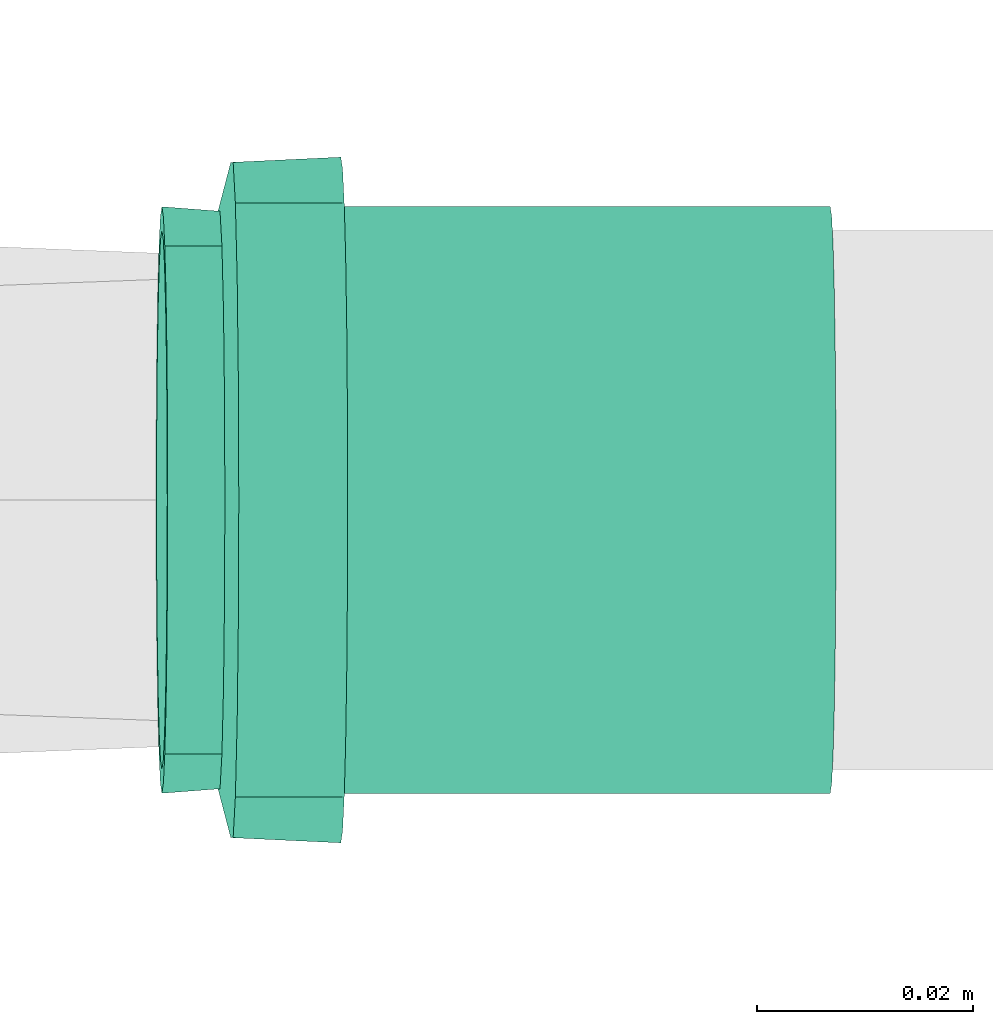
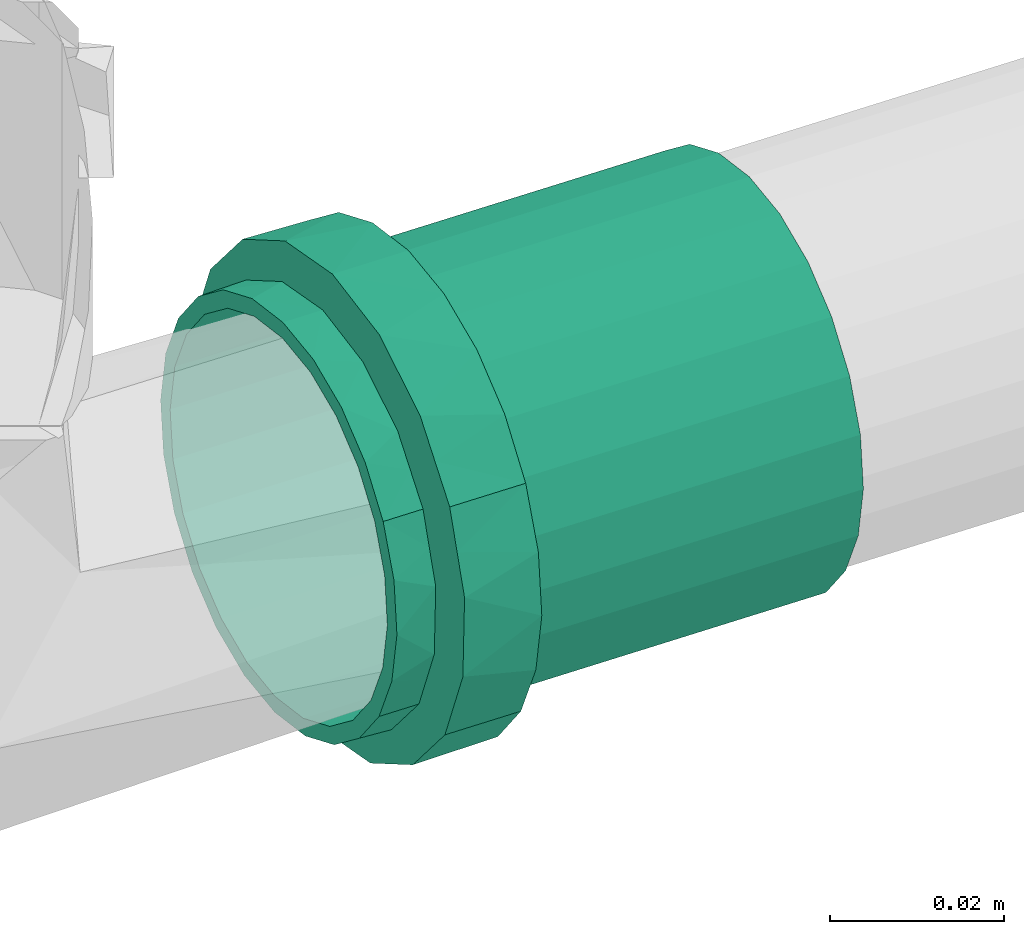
# One storey, part 270 of 589: 1 flow fitting.
"""IFC2X3 building model written with IfcOpenShell, lengths in millimetres."""

from ifc_helpers import new_model, entity, si_unit, converted_unit, derived_unit, direction, frame, origin, place, context, subcontext, project, spatial, faceted_brep, source, transform, mapped, material, type_object, type_shapes, element, save


model = new_model("IFC2X3")

# Units and contexts
model_context = context("Model", 3, precision=0.01, world=origin(), true_north=direction((6.123031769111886e-17, 1.0)))
body_context = subcontext(model_context, "Body", "Model", "MODEL_VIEW")
ifc_project = project(units=[si_unit("LENGTHUNIT", "METRE", prefix="MILLI"), si_unit("AREAUNIT", "SQUARE_METRE"), si_unit("VOLUMEUNIT", "CUBIC_METRE"), converted_unit("PLANEANGLEUNIT", "DEGREE", entity("IfcRatioMeasure", 0.017453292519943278), si_unit("PLANEANGLEUNIT", "RADIAN"), dimensions=[0, 0, 0, 0, 0, 0, 0]), si_unit("MASSUNIT", "GRAM", prefix="KILO"), derived_unit("MASSDENSITYUNIT", [(si_unit("MASSUNIT", "GRAM", prefix="KILO"), 1), (si_unit("LENGTHUNIT", "METRE"), -3)]), derived_unit("IONCONCENTRATIONUNIT", [(si_unit("MASSUNIT", "GRAM", prefix="KILO"), 1), (si_unit("LENGTHUNIT", "METRE"), -3)]), derived_unit("MOMENTOFINERTIAUNIT", [(si_unit("LENGTHUNIT", "METRE"), 4)]), si_unit("TIMEUNIT", "SECOND"), si_unit("FREQUENCYUNIT", "HERTZ"), si_unit("THERMODYNAMICTEMPERATUREUNIT", "DEGREE_CELSIUS"), derived_unit("THERMALTRANSMITTANCEUNIT", [(si_unit("MASSUNIT", "GRAM", prefix="KILO"), 1), (si_unit("THERMODYNAMICTEMPERATUREUNIT", "KELVIN"), -1), (si_unit("TIMEUNIT", "SECOND"), -3)]), derived_unit("THERMALCONDUCTANCEUNIT", [(si_unit("MASSUNIT", "GRAM", prefix="KILO"), 1), (si_unit("THERMODYNAMICTEMPERATUREUNIT", "KELVIN"), -1), (si_unit("TIMEUNIT", "SECOND"), -3), (si_unit("LENGTHUNIT", "METRE"), 1)]), derived_unit("VOLUMETRICFLOWRATEUNIT", [(si_unit("LENGTHUNIT", "METRE"), 3), (si_unit("TIMEUNIT", "SECOND"), -1)]), derived_unit("MASSFLOWRATEUNIT", [(si_unit("MASSUNIT", "GRAM", prefix="KILO"), 1), (si_unit("TIMEUNIT", "SECOND"), -1)]), derived_unit("ROTATIONALFREQUENCYUNIT", [(si_unit("TIMEUNIT", "SECOND"), -1)]), si_unit("ELECTRICCURRENTUNIT", "AMPERE"), si_unit("ELECTRICVOLTAGEUNIT", "VOLT"), si_unit("POWERUNIT", "WATT"), si_unit("FORCEUNIT", "NEWTON", prefix="KILO"), si_unit("ILLUMINANCEUNIT", "LUX"), si_unit("LUMINOUSFLUXUNIT", "LUMEN"), si_unit("LUMINOUSINTENSITYUNIT", "CANDELA"), derived_unit("USERDEFINED", [(si_unit("MASSUNIT", "GRAM", prefix="KILO"), -1), (si_unit("LENGTHUNIT", "METRE"), -2), (si_unit("TIMEUNIT", "SECOND"), 3), (si_unit("LUMINOUSFLUXUNIT", "LUMEN"), 1)]), derived_unit("USERDEFINED", [(si_unit("MASSUNIT", "GRAM", prefix="KILO"), 1), (si_unit("TIMEUNIT", "SECOND"), -3), (si_unit("LENGTHUNIT", "METRE"), 3), (si_unit("ELECTRICCURRENTUNIT", "AMPERE"), -2)]), derived_unit("SOUNDPOWERUNIT", [(si_unit("MASSUNIT", "GRAM", prefix="KILO"), 1), (si_unit("TIMEUNIT", "SECOND"), -3), (si_unit("LENGTHUNIT", "METRE"), 2)]), derived_unit("SOUNDPRESSUREUNIT", [(si_unit("MASSUNIT", "GRAM", prefix="KILO"), 1), (si_unit("LENGTHUNIT", "METRE"), -1), (si_unit("TIMEUNIT", "SECOND"), -2)]), derived_unit("LINEARVELOCITYUNIT", [(si_unit("LENGTHUNIT", "METRE"), 1), (si_unit("TIMEUNIT", "SECOND"), -1)]), si_unit("PRESSUREUNIT", "PASCAL"), derived_unit("USERDEFINED", [(si_unit("MASSUNIT", "GRAM", prefix="KILO"), 1), (si_unit("LENGTHUNIT", "METRE"), -2), (si_unit("TIMEUNIT", "SECOND"), -2)]), derived_unit("LINEARFORCEUNIT", [(si_unit("MASSUNIT", "GRAM", prefix="KILO"), 1), (si_unit("TIMEUNIT", "SECOND"), -2)]), derived_unit("PLANARFORCEUNIT", [(si_unit("MASSUNIT", "GRAM", prefix="KILO"), 1), (si_unit("LENGTHUNIT", "METRE"), -1), (si_unit("TIMEUNIT", "SECOND"), -2)]), derived_unit("SPECIFICHEATCAPACITYUNIT", [(si_unit("THERMODYNAMICTEMPERATUREUNIT", "KELVIN"), -1), (si_unit("LENGTHUNIT", "METRE"), 2), (si_unit("TIMEUNIT", "SECOND"), -2)]), derived_unit("HEATINGVALUEUNIT", [(si_unit("LENGTHUNIT", "METRE"), 2), (si_unit("TIMEUNIT", "SECOND"), -2)]), derived_unit("VAPORPERMEABILITYUNIT", [(si_unit("LENGTHUNIT", "METRE"), -1), (si_unit("TIMEUNIT", "SECOND"), 1)]), derived_unit("DYNAMICVISCOSITYUNIT", [(si_unit("MASSUNIT", "GRAM", prefix="KILO"), 1), (si_unit("TIMEUNIT", "SECOND"), -1), (si_unit("LENGTHUNIT", "METRE"), -1)]), derived_unit("THERMALEXPANSIONCOEFFICIENTUNIT", [(si_unit("THERMODYNAMICTEMPERATUREUNIT", "KELVIN"), -1)]), derived_unit("MODULUSOFELASTICITYUNIT", [(si_unit("MASSUNIT", "GRAM", prefix="KILO"), 1), (si_unit("LENGTHUNIT", "METRE"), -1), (si_unit("TIMEUNIT", "SECOND"), -2)]), derived_unit("ISOTHERMALMOISTURECAPACITYUNIT", [(si_unit("LENGTHUNIT", "METRE"), 3), (si_unit("MASSUNIT", "GRAM", prefix="KILO"), -1)]), derived_unit("MOISTUREDIFFUSIVITYUNIT", [(si_unit("TIMEUNIT", "SECOND"), -1), (si_unit("LENGTHUNIT", "METRE"), 2)])], contexts=[model_context])

# Site, building, storey
site_placement = place(None, origin())
site = spatial("IfcSite", under=ifc_project, at=site_placement, Name="Default", CompositionType="ELEMENT")
building_placement = place(site_placement, origin())
building = spatial("IfcBuilding", under=site, at=building_placement, CompositionType="ELEMENT")
storey_placement = place(building_placement, frame((0.0, 0.0, 100.0)))
storey = spatial("IfcBuildingStorey", under=building, at=storey_placement, Name="TÉRREO", CompositionType="ELEMENT", Elevation=100.0)

# Flow fitting
ifc_material = material(Name="PVC Série Normal")
pipe_fitting_type = type_object("IfcPipeFittingType", Name="PVC Esgoto_Luva Simples para Conexão_Rodrigo MEP:Standard", PredefinedType="NOTDEFINED", material=ifc_material)
shared_shape = source(origin(), body_context, "Body", "Brep", [
    faceted_brep([(16.599999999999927, 15.900000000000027, -27.53960784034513), (16.599999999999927, 22.485995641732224, -22.485995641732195), (16.599999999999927, 13.599999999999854, -23.555890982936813), (16.599999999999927, 7.039878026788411, -26.273182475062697), (16.599999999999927, 8.2304456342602, -30.71644127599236), (16.599999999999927, 19.233304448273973, -19.233304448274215), (16.599999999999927, 27.539607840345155, -15.899999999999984), (16.599999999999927, 23.55589098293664, -13.600000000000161), (16.599999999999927, 26.273182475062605, -7.03987802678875), (16.599999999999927, 30.716441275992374, -8.230445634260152), (16.599999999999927, 27.2, 0.0), (16.599999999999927, 31.8, 0.0), (16.599999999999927, 26.273182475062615, 7.0398780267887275), (16.599999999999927, 30.71644127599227, 8.23044563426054), (16.599999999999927, 23.555890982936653, 13.60000000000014), (16.599999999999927, 27.539607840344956, 15.900000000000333), (16.599999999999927, 19.233304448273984, 19.2333044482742), (16.599999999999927, 22.485995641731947, 22.48599564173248), (16.599999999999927, 13.599999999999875, 23.555890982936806), (16.599999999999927, 15.899999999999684, 27.53960784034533), (16.599999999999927, 7.039878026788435, 26.27318247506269), (16.599999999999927, 8.230445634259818, 30.716441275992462), (16.599999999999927, 0.0, 27.2), (16.599999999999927, 0.0, 31.8), (16.599999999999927, -7.039878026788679, 26.273182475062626), (16.599999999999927, -8.230445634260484, 30.716441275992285), (16.599999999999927, -13.600000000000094, 23.555890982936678), (16.599999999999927, -15.900000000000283, 27.53960784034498), (16.599999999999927, -19.23330444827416, 19.233304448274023), (16.599999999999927, -22.485995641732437, 22.48599564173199), (16.599999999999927, -23.55589098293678, 13.59999999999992), (16.599999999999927, -27.539607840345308, 15.899999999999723), (16.599999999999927, -30.71644127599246, 8.230445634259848), (16.599999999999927, -26.273182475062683, 7.039878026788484), (16.599999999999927, -31.8, 0.0), (16.599999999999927, -27.2, 0.0), (16.599999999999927, -30.71644127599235, -8.23044563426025), (16.599999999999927, -26.273182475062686, -7.03987802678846), (16.599999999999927, -27.53960784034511, -15.90000000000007), (16.599999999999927, -23.55589098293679, -13.599999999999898), (16.599999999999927, -22.485995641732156, -22.485995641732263), (16.599999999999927, -19.233304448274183, -19.233304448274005), (16.599999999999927, -15.899999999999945, -27.53960784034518), (16.599999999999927, -13.600000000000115, -23.555890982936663), (16.599999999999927, -8.230445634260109, -30.716441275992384), (16.599999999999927, -7.039878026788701, -26.273182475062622), (16.599999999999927, 0.0, -31.8), (16.599999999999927, 0.0, -27.2), (6.500000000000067, -10.708108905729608, 29.429219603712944), (6.500000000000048, -24.359073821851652, 20.44200387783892), (6.500000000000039, -27.120498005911, 15.6595386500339), (6.50000000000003, -29.881922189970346, 10.877073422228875), (6.500000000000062, -15.89769721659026, 27.540937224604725), (6.500000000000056, -20.128385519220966, 23.991470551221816), (6.50000000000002, -30.840961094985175, 5.438536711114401), (6.5000000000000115, -31.8, 0.0), (6.50000000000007, -5.518520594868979, 31.317501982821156), (6.500000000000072, 5.526376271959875, 31.316116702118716), (6.50000000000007, 0.00392783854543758, 31.316809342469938), (6.500000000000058, 20.134403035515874, 23.986420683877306), (6.500000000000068, 10.715490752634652, 29.42653259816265), (6.500000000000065, 15.904605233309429, 27.536948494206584), (6.500000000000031, 29.8846497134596, 10.869577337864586), (6.500000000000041, 27.12442527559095, 15.652735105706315), (6.5000000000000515, 24.364200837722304, 20.435892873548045), (6.5000000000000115, 31.8, 0.0), (6.499999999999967, 24.364200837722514, -20.435892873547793), (6.499999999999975, 27.12442527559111, -15.652735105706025), (6.499999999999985, 29.884649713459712, -10.869577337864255), (6.4999999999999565, 15.904605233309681, -27.53694849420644), (6.499999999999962, 20.134403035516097, -23.986420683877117), (6.499999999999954, 10.715490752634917, -29.42653259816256), (6.499999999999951, 5.526376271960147, -31.31611670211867), (6.499999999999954, -5.518520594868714, -31.317501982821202), (6.499999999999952, 0.003927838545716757, -31.316809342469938), (6.499999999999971, -20.128385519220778, -23.99147055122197), (6.499999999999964, -15.897697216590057, -27.54093722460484), (6.499999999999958, -10.70810890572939, -29.42921960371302), (6.499999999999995, -29.881922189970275, -10.877073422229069), (6.499999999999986, -27.12049800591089, -15.659538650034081), (6.499999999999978, -24.359073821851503, -20.442003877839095), (6.500000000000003, -30.840961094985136, -5.438536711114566), (6.499999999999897, -30.696173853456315, -6.259599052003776), (62.0, 13.600000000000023, -23.55589098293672), (62.0, 19.233304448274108, -19.23330444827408), (62.0, 12.499999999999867, -21.650635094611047), (62.0, 6.470476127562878, -24.14814565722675), (62.0, 7.039878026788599, -26.273182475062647), (62.0, 17.677669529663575, -17.677669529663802), (62.0, 23.55589098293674, -13.599999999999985), (62.0, 21.65063509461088, -12.50000000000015), (62.0, 24.148145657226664, -6.470476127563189), (62.0, 26.27318247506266, -7.039878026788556), (62.0, 25.0, 0.0), (62.0, 27.2, 0.0), (62.0, 24.148145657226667, 6.4704761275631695), (62.0, 26.273182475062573, 7.03987802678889), (62.0, 21.650635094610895, 12.500000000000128), (62.0, 23.555890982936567, 13.600000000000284), (62.0, 17.67766952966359, 17.67766952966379), (62.0, 19.233304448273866, 19.233304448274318), (62.0, 12.499999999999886, 21.650635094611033), (62.0, 13.59999999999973, 23.55589098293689), (62.0, 6.4704761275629, 24.14814565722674), (62.0, 7.039878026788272, 26.273182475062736), (62.0, 0.0, 25.0), (62.0, 0.0, 27.2), (62.0, -6.470476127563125, 24.148145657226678), (62.0, -7.039878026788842, 26.273182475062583), (62.0, -12.500000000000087, 21.650635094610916), (62.0, -13.600000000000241, 23.555890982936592), (62.0, -17.677669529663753, 17.677669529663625), (62.0, -19.233304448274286, 19.2333044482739), (62.0, -21.65063509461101, 12.499999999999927), (62.0, -23.555890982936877, 13.599999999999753), (62.0, -26.27318247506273, 7.039878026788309), (62.0, -24.14814565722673, 6.470476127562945), (62.0, -27.2, 0.0), (62.0, -25.0, 0.0), (62.0, -26.27318247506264, -7.0398780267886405), (62.0, -24.148145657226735, -6.470476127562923), (62.0, -23.5558909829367, -13.600000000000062), (62.0, -21.650635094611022, -12.499999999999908), (62.0, -19.233304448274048, -19.233304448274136), (62.0, -17.67766952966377, -17.677669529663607), (62.0, -13.599999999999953, -23.555890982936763), (62.0, -12.500000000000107, -21.650635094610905), (62.0, -7.039878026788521, -26.27318247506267), (62.0, -6.470476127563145, -24.148145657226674), (62.0, 0.0, -27.2), (62.0, 0.0, -25.0), (0.0, 12.499999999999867, -21.650635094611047), (0.0, 19.233304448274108, -19.23330444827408), (0.0, 13.600000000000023, -23.55589098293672), (0.0, 6.470476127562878, -24.14814565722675), (0.0, 17.677669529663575, -17.677669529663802), (0.0, 23.55589098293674, -13.599999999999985), (0.0, 21.65063509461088, -12.50000000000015), (0.0, 24.148145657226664, -6.470476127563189), (0.0, 26.27318247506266, -7.039878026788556), (0.0, 25.0, 0.0), (0.0, 27.2, 0.0), (0.0, 24.148145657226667, 6.4704761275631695), (0.0, 26.273182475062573, 7.03987802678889), (0.0, 21.650635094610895, 12.500000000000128), (0.0, 23.555890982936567, 13.600000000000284), (0.0, 17.67766952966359, 17.67766952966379), (0.0, 19.233304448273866, 19.233304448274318), (0.0, 12.499999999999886, 21.650635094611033), (0.0, 13.59999999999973, 23.55589098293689), (0.0, 6.4704761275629, 24.14814565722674), (0.0, 7.039878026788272, 26.273182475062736), (0.0, 0.0, 25.0), (0.0, 0.0, 27.2), (0.0, -6.470476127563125, 24.148145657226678), (0.0, -7.039878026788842, 26.273182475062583), (0.0, -12.500000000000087, 21.650635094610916), (0.0, -13.600000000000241, 23.555890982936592), (0.0, -17.677669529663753, 17.677669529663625), (0.0, -19.233304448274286, 19.2333044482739), (0.0, -21.65063509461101, 12.499999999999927), (0.0, -23.555890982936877, 13.599999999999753), (0.0, -26.27318247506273, 7.039878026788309), (0.0, -24.14814565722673, 6.470476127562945), (0.0, -27.2, 0.0), (0.0, -25.0, 0.0), (0.0, -26.27318247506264, -7.0398780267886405), (0.0, -24.148145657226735, -6.470476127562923), (0.0, -23.5558909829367, -13.600000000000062), (0.0, -21.650635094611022, -12.499999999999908), (0.0, -19.233304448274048, -19.233304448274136), (0.0, -17.67766952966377, -17.677669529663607), (0.0, -13.599999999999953, -23.555890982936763), (0.0, -12.500000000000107, -21.650635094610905), (0.0, -7.039878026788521, -26.27318247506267), (0.0, -6.470476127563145, -24.148145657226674), (0.0, 0.0, -27.2), (0.0, 0.0, -25.0), (0.0, 7.039878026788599, -26.273182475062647), (5.300000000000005, -26.37968999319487, 4.651830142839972), (5.299999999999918, -26.25584678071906, 5.354122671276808), (5.300000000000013, -25.559379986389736, 9.303660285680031), (5.300000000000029, -20.835434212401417, 17.48498444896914), (5.300000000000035, -17.216732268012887, 20.521006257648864), (5.300000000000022, -23.19740709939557, 13.394322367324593), (5.3000000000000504, -4.720244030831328, 26.787297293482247), (5.300000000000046, -9.15913717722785, 25.172162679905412), (5.299999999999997, -27.2, 0.0), (5.300000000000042, -13.598030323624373, 23.557028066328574), (5.300000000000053, 9.165451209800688, 25.169864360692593), (5.300000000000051, 13.603939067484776, 23.55361632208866), (5.300000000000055, 4.7269633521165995, 26.786112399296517), (5.300000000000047, 17.221879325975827, 20.516686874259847), (5.300000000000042, 20.839819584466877, 17.479757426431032), (5.3000000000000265, 25.56171296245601, 9.297248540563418), (5.299999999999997, 27.2, 0.0), (5.3000000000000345, 23.20076627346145, 13.388502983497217), (5.300000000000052, 0.003359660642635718, 26.786704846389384), (5.299999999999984, 25.56171296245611, -9.29724854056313), (5.299999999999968, 20.839819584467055, -17.47975742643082), (5.2999999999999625, 17.22187932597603, -20.516686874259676), (5.299999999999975, 23.200766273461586, -13.388502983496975), (5.299999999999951, 4.726963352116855, -26.78611239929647), (5.2999999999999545, 9.165451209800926, -25.169864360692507), (5.299999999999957, 13.603939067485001, -23.553616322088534), (5.29999999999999, -26.379689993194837, -4.651830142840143), (5.299999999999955, -9.159137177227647, -25.17216267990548), (5.299999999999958, -13.5980303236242, -23.55702806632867), (5.299999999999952, -4.720244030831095, -26.787297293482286), (5.299999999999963, -17.216732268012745, -20.52100625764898), (5.299999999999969, -20.83543421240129, -17.484984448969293), (5.299999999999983, -25.559379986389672, -9.303660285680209), (5.299999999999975, -23.197407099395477, -13.394322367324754), (5.299999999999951, 0.003359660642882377, -26.78670484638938), (39.0, -25.0, 0.0), (39.0, 25.0, 0.0)], [[[0, 1, 2]], [[0, 2, 3]], [[3, 4, 0]], [[2, 1, 5]], [[6, 5, 1]], [[7, 5, 6]], [[8, 7, 6]], [[8, 6, 9]], [[8, 9, 10]], [[10, 9, 11]], [[12, 10, 11]], [[12, 11, 13]], [[14, 12, 13]], [[14, 13, 15]], [[16, 14, 15]], [[15, 17, 16]], [[17, 18, 16]], [[17, 19, 18]], [[18, 19, 20]], [[21, 20, 19]], [[20, 21, 22]], [[22, 21, 23]], [[22, 23, 24]], [[24, 23, 25]], [[24, 25, 26]], [[27, 26, 25]], [[27, 28, 26]], [[28, 27, 29]], [[30, 28, 29]], [[31, 30, 29]], [[32, 30, 31]], [[33, 30, 32]], [[33, 32, 34]], [[35, 33, 34]], [[36, 35, 34]], [[36, 37, 35]], [[37, 36, 38]], [[39, 37, 38]], [[39, 38, 40]], [[39, 40, 41]], [[40, 42, 41]], [[41, 42, 43]], [[43, 42, 44]], [[44, 45, 43]], [[46, 45, 44]], [[4, 47, 46]], [[46, 47, 45]], [[4, 3, 47]], [[48, 27, 25]], [[31, 29, 49]], [[31, 49, 50, 51]], [[52, 53, 27]], [[32, 51, 54]], [[54, 55, 34]], [[54, 34, 32]], [[25, 56, 48]], [[49, 29, 53]], [[23, 57, 58, 56]], [[59, 19, 17]], [[27, 53, 29]], [[48, 52, 27]], [[31, 51, 32]], [[57, 23, 21]], [[60, 19, 61]], [[15, 62, 63, 64]], [[19, 60, 21]], [[15, 13, 62]], [[17, 64, 59]], [[57, 21, 60]], [[23, 56, 25]], [[15, 64, 17]], [[13, 65, 62]], [[13, 11, 65]], [[59, 61, 19]], [[65, 11, 9]], [[6, 1, 66]], [[6, 66, 67, 68]], [[69, 70, 0]], [[68, 65, 9]], [[71, 69, 0]], [[71, 0, 4]], [[4, 72, 71]], [[66, 1, 70]], [[46, 73, 74, 72]], [[75, 76, 42]], [[0, 70, 1]], [[75, 42, 40]], [[6, 68, 9]], [[73, 46, 44]], [[77, 42, 76]], [[38, 78, 79, 80]], [[42, 77, 44]], [[38, 36, 78]], [[40, 80, 75]], [[73, 44, 77]], [[46, 72, 4]], [[38, 80, 40]], [[36, 81, 82, 78]], [[55, 81, 34]], [[34, 81, 36]], [[83, 84, 85]], [[83, 85, 86]], [[86, 87, 83]], [[85, 84, 88]], [[89, 88, 84]], [[88, 89, 90]], [[90, 89, 91]], [[92, 91, 89]], [[92, 93, 91]], [[93, 92, 94]], [[95, 93, 94]], [[94, 96, 95]], [[95, 96, 97]], [[98, 97, 96]], [[97, 98, 99]], [[99, 98, 100]], [[101, 99, 100]], [[100, 102, 101]], [[101, 102, 103]], [[104, 103, 102]], [[103, 104, 105]], [[105, 104, 106]], [[105, 106, 107]], [[107, 106, 108]], [[107, 108, 109]], [[110, 109, 108]], [[110, 111, 109]], [[111, 110, 112]], [[112, 113, 111]], [[114, 113, 112]], [[113, 114, 115]], [[115, 116, 113]], [[117, 116, 115]], [[117, 118, 116]], [[119, 118, 117]], [[119, 120, 118]], [[120, 119, 121]], [[121, 122, 120]], [[122, 121, 123]], [[122, 123, 124]], [[123, 125, 124]], [[124, 125, 126]], [[126, 125, 127]], [[127, 128, 126]], [[129, 128, 127]], [[87, 130, 129]], [[129, 130, 128]], [[87, 86, 130]], [[131, 132, 133]], [[134, 131, 133]], [[135, 132, 131]], [[132, 135, 136]], [[137, 136, 135]], [[138, 136, 137]], [[136, 138, 139]], [[138, 140, 139]], [[141, 139, 140]], [[141, 140, 142]], [[142, 143, 141]], [[144, 143, 142]], [[143, 144, 145]], [[146, 145, 144]], [[147, 145, 146]], [[147, 146, 148]], [[148, 149, 147]], [[150, 149, 148]], [[149, 150, 151]], [[152, 151, 150]], [[153, 151, 152]], [[154, 153, 152]], [[155, 153, 154]], [[156, 155, 154]], [[155, 156, 157]], [[156, 158, 157]], [[159, 157, 158]], [[158, 160, 159]], [[159, 160, 161]], [[162, 161, 160]], [[160, 163, 162]], [[162, 163, 164]], [[163, 165, 164]], [[164, 165, 166]], [[165, 167, 166]], [[168, 166, 167]], [[167, 169, 168]], [[170, 168, 169]], [[171, 170, 169]], [[171, 172, 170]], [[173, 172, 171]], [[174, 172, 173]], [[173, 175, 174]], [[174, 175, 176]], [[175, 177, 176]], [[177, 134, 178]], [[176, 177, 178]], [[133, 178, 134]], [[162, 179, 180, 181]], [[159, 182, 183]], [[182, 161, 181, 184]], [[185, 155, 186]], [[161, 162, 181]], [[187, 179, 164]], [[183, 188, 157]], [[183, 157, 159]], [[161, 182, 159]], [[189, 190, 149]], [[189, 149, 151]], [[157, 188, 186]], [[157, 186, 155]], [[153, 155, 185]], [[164, 179, 162]], [[151, 191, 189]], [[147, 192, 193]], [[143, 194, 195]], [[194, 145, 193, 196]], [[143, 195, 141]], [[10, 12, 96, 94]], [[149, 192, 147]], [[153, 185, 197, 191]], [[153, 191, 151]], [[145, 147, 193]], [[190, 192, 149]], [[145, 194, 143]], [[139, 195, 198]], [[132, 199, 200]], [[199, 136, 198, 201]], [[202, 178, 203]], [[136, 139, 198]], [[139, 141, 195]], [[92, 8, 10, 94]], [[133, 203, 178]], [[200, 204, 133]], [[136, 199, 132]], [[205, 164, 166]], [[206, 207, 172]], [[133, 204, 203]], [[206, 172, 174]], [[176, 178, 202]], [[200, 133, 132]], [[174, 208, 206]], [[170, 209, 210]], [[166, 211, 205]], [[211, 168, 210, 212]], [[168, 211, 166]], [[172, 209, 170]], [[176, 202, 213, 208]], [[176, 208, 174]], [[168, 170, 210]], [[207, 209, 172]], [[205, 187, 164]], [[116, 118, 214, 165, 163]], [[156, 109, 111, 158]], [[111, 113, 160, 158]], [[113, 116, 163, 160]], [[107, 109, 156, 154]], [[154, 152, 105, 107]], [[103, 105, 152, 150]], [[103, 150, 148, 101]], [[142, 95, 97, 144]], [[97, 99, 146, 144]], [[99, 101, 148, 146]], [[93, 95, 142, 140, 215]], [[215, 140, 138, 91, 93]], [[135, 131, 85, 88]], [[90, 91, 138, 137]], [[90, 137, 135, 88]], [[86, 85, 131, 134]], [[134, 177, 130, 86]], [[128, 130, 177, 175]], [[128, 175, 173, 126]], [[167, 120, 122, 169]], [[122, 124, 171, 169]], [[124, 126, 173, 171]], [[118, 120, 167, 165, 214]], [[211, 78, 82, 81, 55, 187, 205]], [[79, 78, 211, 212, 210, 80]], [[75, 80, 210, 209, 207, 76]], [[207, 206, 208, 73, 77, 76]], [[213, 202, 72, 74, 73, 208]], [[203, 204, 69, 71, 72, 202]], [[198, 195, 65, 68]], [[199, 201, 198, 68, 67, 66]], [[204, 200, 199, 66, 70, 69]], [[195, 194, 62, 65]], [[197, 185, 56, 58, 57, 191]], [[63, 62, 194, 196, 193, 64]], [[57, 60, 61, 190, 189, 191]], [[193, 192, 190, 61, 59, 64]], [[48, 56, 185, 186, 188, 52]], [[187, 55, 54, 51, 181, 180, 179]], [[182, 184, 181, 51, 50, 49]], [[188, 183, 182, 49, 53, 52]], [[30, 33, 115, 114]], [[117, 115, 33, 35]], [[26, 28, 112, 110]], [[114, 112, 28, 30]], [[24, 26, 110, 108]], [[108, 106, 22, 24]], [[18, 20, 104, 102]], [[100, 16, 18, 102]], [[12, 14, 98, 96]], [[100, 98, 14, 16]], [[104, 20, 22, 106]], [[89, 7, 8, 92]], [[83, 87, 3, 2]], [[7, 89, 84, 5]], [[83, 2, 5, 84]], [[87, 129, 47, 3]], [[43, 45, 127, 125]], [[123, 41, 43, 125]], [[37, 39, 121, 119]], [[123, 121, 39, 41]], [[35, 37, 119, 117]], [[127, 45, 47, 129]]]),
])
type_shapes(pipe_fitting_type, [shared_shape])
flow_fitting_placement = place(storey_placement, frame((5134.835917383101, 2985.7274599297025, -194.7390915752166), z_axis=(0.0, -1.0, 0.0), x_axis=(0.9998000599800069, 0.0, -0.019996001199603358)))
element("IfcFlowFitting", 1, at=flow_fitting_placement, inside=storey, type_object=pipe_fitting_type, material=ifc_material, Name="PVC Esgoto_Luva Simples para Conexão_Rodrigo MEP:Standard", ObjectType="PVC Esgoto_Luva Simples para Conexão_Rodrigo MEP:Standard", context=body_context, shape_type="MappedRepresentation", body=[
    mapped(shared_shape, transform((0.0, 0.0, 0.0), scale=1.0)),
])

save(model, "model.ifc")
